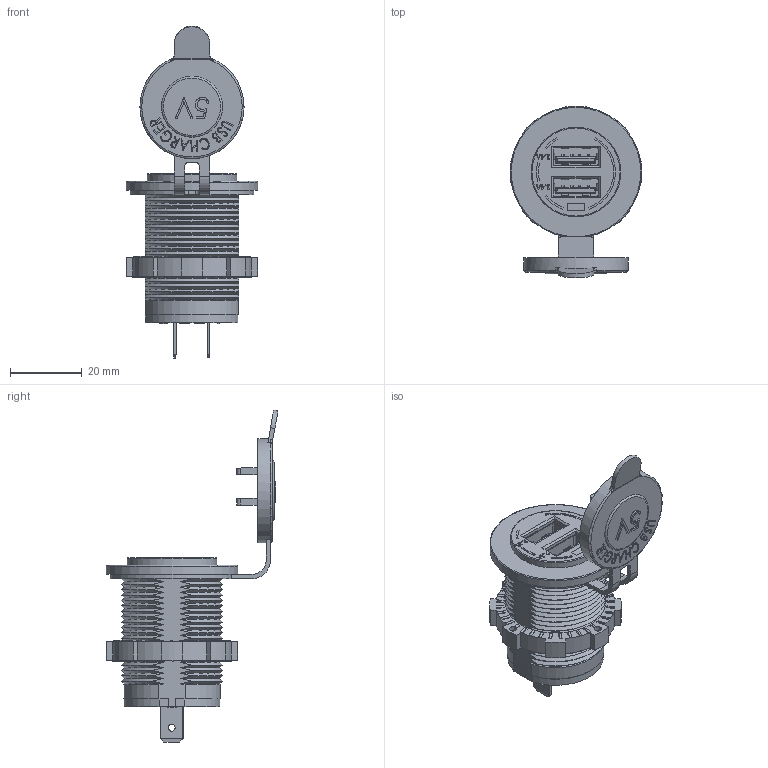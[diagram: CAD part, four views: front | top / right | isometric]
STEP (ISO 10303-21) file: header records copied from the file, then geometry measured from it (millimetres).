
FILE_DESCRIPTION(/* description */ (''),/* implementation_level */ '2;1');
FILE_NAME(/* name */ 'A8-USB2-1-BN-4.8A.stp',/* time_stamp */ '2025-02-17T13:06:26-08:00',/* author */ ('tylerl'),/* organization */ (''),/* preprocessor_version */ 'ST-DEVELOPER v20',/* originating_system */ 'Autodesk Inventor 2025',/* authorisation */ '');
FILE_SCHEMA (('AUTOMOTIVE_DESIGN { 1 0 10303 214 3 1 1 }'));
Products named in the file (20): Assembly16; AS234_20241025; AS232´ßÅé_4.8A µLYIS LOGO; USB©³»\_îAÔO; AS212 Á³¥À; AS234¹q¸ôªO¥b¦¨«~; AS234 AªO; AS234-AªO; UBSA¥ÀÂùª½´¡µL¸
}_²k; LED3020-_Àq_; AS234 BªO; AS232 BªO_²k; 0603 ¶K¤ù¹q®e_Àq_; 0603 ¶K¤ù¹qªý_Àq_; AS232¥¿·¥ºÝ¤l; JW1623_Àq_; MT4606_Àq_; 0603 S2A-32V¶K¤ù«OÀIµ·_À
q_; USB LED¾É¥ú¬W; AS234 ¨¾¹Ð»\_60«×§é
Ås
Assembly tree (30 placements, depth 5):
  Assembly16
    AS234_20241025
      AS232´ßÅé_4.8A µLYIS LOGO
      USB©³»\_îAÔO
      AS212 Á³¥À
      AS234¹q¸ôªO¥b¦¨«~
        AS234 AªO
          AS234-AªO
          UBSA¥ÀÂùª½´¡µL¸
}_²k
          LED3020-_Àq_
          0603 ¶K¤ù¹qªý_Àq_  x5
        AS234 BªO
          AS232 BªO_²k
          0603 ¶K¤ù¹q®e_Àq_  x2
          0603 ¶K¤ù¹qªý_Àq_  x5
          AS232¥¿·¥ºÝ¤l  x2
          JW1623_Àq_
          MT4606_Àq_
          0603 S2A-32V¶K¤ù«OÀIµ·_À
q_
      USB LED¾É¥ú¬W
      AS234 ¨¾¹Ð»\_60«×§é
Ås
Bounding box: 36.75 x 47.92 x 92.55 mm (x, y, z)
Volume: 16851.6 mm3; surface area: 23251.6 mm2
Topology: 44 solids, 45 shells, 2184 faces, 5632 edges, 3669 vertices
Faces by surface type: plane 1591, cylinder 326, bspline 133, cone 110, torus 12, sphere 12
Full cylindrical faces by diameter (mm): 0.7 x8, 1 x8, 2 x10, 23.5 x1, 24.9 x1, 25.05 x1, 26.5 x1, 27.5 x2, 29 x1, 36.6 x1
Entity records: 68499 total; most frequent: CARTESIAN_POINT 18855, ORIENTED_EDGE 10490, DIRECTION 9475, EDGE_CURVE 5247, LINE 3947, VECTOR 3947, VERTEX_POINT 3459, AXIS2_PLACEMENT_3D 2764
